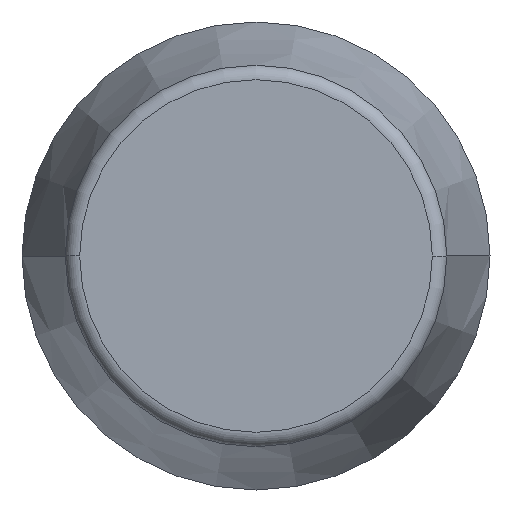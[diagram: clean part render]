
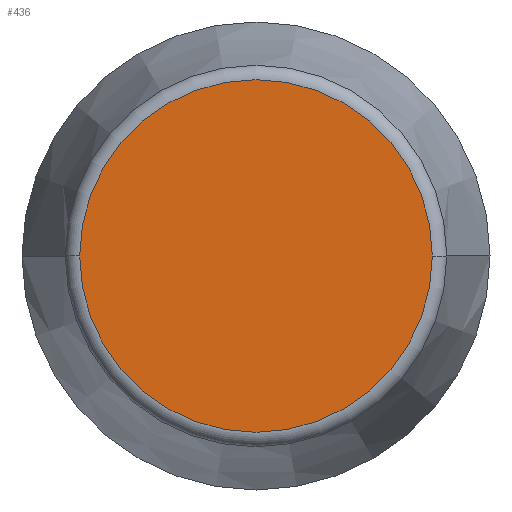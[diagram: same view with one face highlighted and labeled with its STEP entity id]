
A CAD part, front view. The second image highlights one B-rep face of the part: STEP entity #436.
In plain terms, the highlighted planar face has unit normal (0, -1, 0).
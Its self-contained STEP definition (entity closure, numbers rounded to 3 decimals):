
#255 = CARTESIAN_POINT ( 'NONE',  ( 5.951, 0., 0. ) ) ;
#436 = ADVANCED_FACE ( 'NONE', ( #2238 ), #930, .T. ) ;
#519 = CARTESIAN_POINT ( 'NONE',  ( -5.951, 0., 0. ) ) ;
#526 = DIRECTION ( 'NONE',  ( 1., 0., 0. ) ) ;
#552 = DIRECTION ( 'NONE',  ( 1., 0., 0. ) ) ;
#553 = DIRECTION ( 'NONE',  ( 0., -1., 0. ) ) ;
#573 = CARTESIAN_POINT ( 'NONE',  ( 0., 0., 0. ) ) ;
#604 = DIRECTION ( 'NONE',  ( 0., -1., 0. ) ) ;
#639 = CARTESIAN_POINT ( 'NONE',  ( 0., 0., 0. ) ) ;
#744 = CIRCLE ( 'NONE', #2108, 5.951 ) ;
#771 = CIRCLE ( 'NONE', #2028, 5.951 ) ;
#917 = DIRECTION ( 'NONE',  ( 1., 0., 0. ) ) ;
#930 = PLANE ( 'NONE',  #1797 ) ;
#960 = DIRECTION ( 'NONE',  ( 0., -1., 0. ) ) ;
#985 = CARTESIAN_POINT ( 'NONE',  ( -6.35, 0., 0. ) ) ;
#1358 = EDGE_LOOP ( 'NONE', ( #1452, #1467 ) ) ;
#1452 = ORIENTED_EDGE ( 'NONE', *, *, #1810, .T. ) ;
#1467 = ORIENTED_EDGE ( 'NONE', *, *, #2051, .T. ) ;
#1797 = AXIS2_PLACEMENT_3D ( 'NONE', #985, #960, #917 ) ;
#1810 = EDGE_CURVE ( 'NONE', #2169, #2092, #744, .T. ) ;
#2028 = AXIS2_PLACEMENT_3D ( 'NONE', #573, #604, #526 ) ;
#2051 = EDGE_CURVE ( 'NONE', #2092, #2169, #771, .T. ) ;
#2092 = VERTEX_POINT ( 'NONE', #519 ) ;
#2108 = AXIS2_PLACEMENT_3D ( 'NONE', #639, #553, #552 ) ;
#2169 = VERTEX_POINT ( 'NONE', #255 ) ;
#2238 = FACE_OUTER_BOUND ( 'NONE', #1358, .T. ) ;
